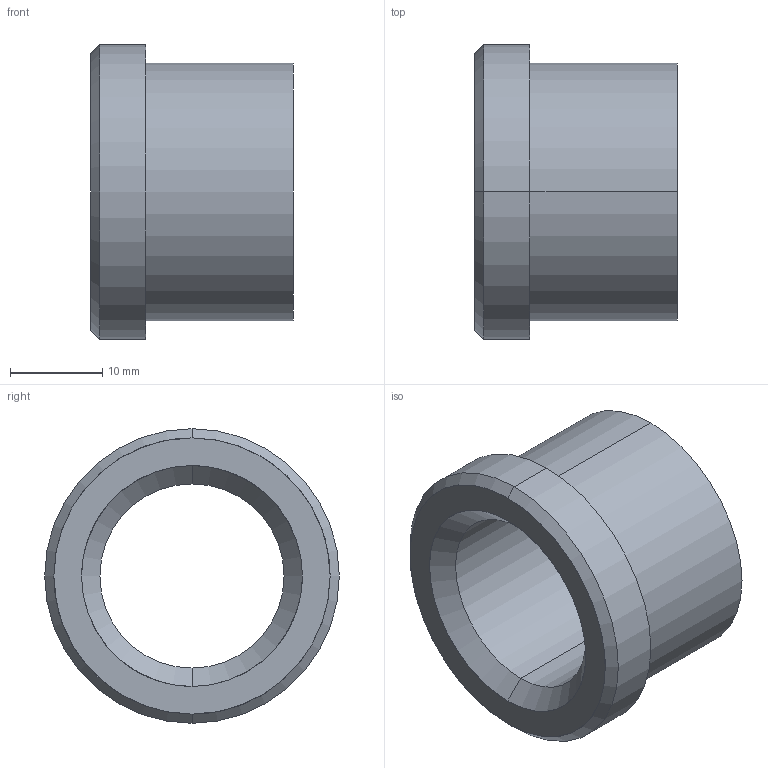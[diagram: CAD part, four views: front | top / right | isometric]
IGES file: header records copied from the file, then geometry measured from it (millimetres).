
Start section: START RECORD GO HERE.
Global section: file name: 353-20X22.igs; native system: DASSAULT SYSTEMES CATIA V5 R20 - www.3ds.com; preprocessor: CATIA Version 5 Release 20 ; author: Utente; organization: NB04-ASUS; date: 20210511.165309; units: millimetre
Bounding box: 22 x 32 x 32 mm (x, y, z)
Surface area: 4205 mm2 (no closed solid volume)
Topology: 0 solids, 0 shells, 15 faces, 96 edges, 96 vertices
Faces by surface type: revolution 12, plane 3
